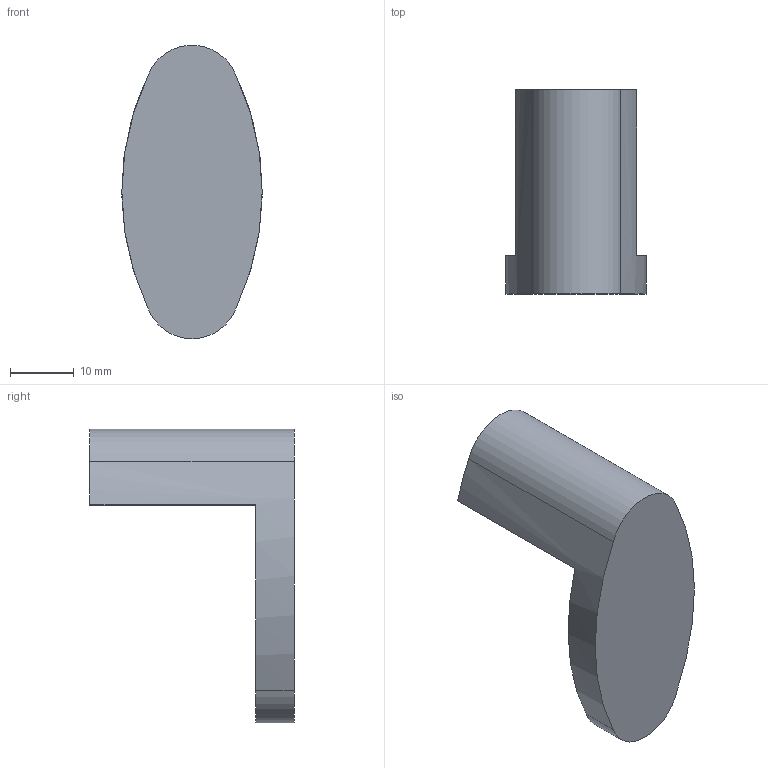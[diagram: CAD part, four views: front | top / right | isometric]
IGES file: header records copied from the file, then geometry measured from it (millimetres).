
Start section: Data from Parasolid IGES Translator 15.0.47, Copyright(c) 2006 Siemens P LM Software. All Rights Reserved.
Global section: file name: 9113460.igs; native system:  By UGS Corp.; preprocessor: XPlus GENERIC/IGES 3.0; author: Noname; organization: Noname; date: 20140122.135557; units: millimetre
Bounding box: 22 x 32 x 45.97 mm (x, y, z)
Surface area: 3718.5 mm2 (no closed solid volume)
Topology: 0 solids, 0 shells, 13 faces, 60 edges, 60 vertices
Faces by surface type: extrusion 7, revolution 6
